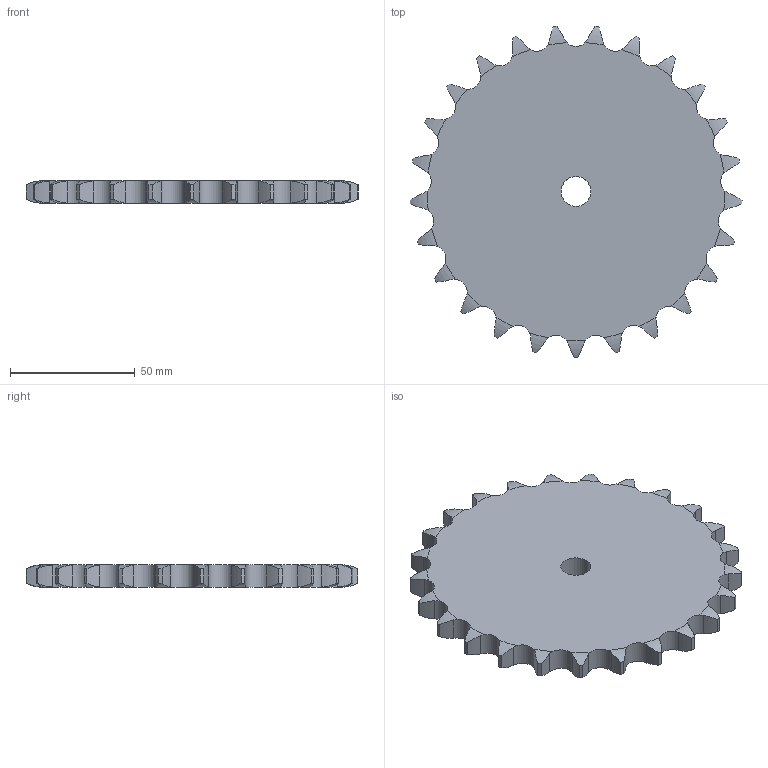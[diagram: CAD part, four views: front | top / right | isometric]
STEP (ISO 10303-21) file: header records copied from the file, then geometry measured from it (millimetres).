
FILE_DESCRIPTION((''),'2;1');
FILE_NAME('500-301-0025_PRT','2021-02-12T',('Brieden'),('Brieden'),'PRO/ENGINEER BY PARAMETRIC TECHNOLOGY CORPORATION, 2010160','PRO/ENGINEER BY PARAMETRIC TECHNOLOGY CORPORATION, 2010160','');
FILE_SCHEMA(('AUTOMOTIVE_DESIGN { 1 0 10303 214 1 1 1 1 }'));
Length unit declared in the file: millimetre
Products named in the file (1): 500-301-0025_PRT
Bounding box: 133.22 x 132.96 x 9.1 mm (x, y, z)
Volume: 106089.8 mm3; surface area: 28979.4 mm2
Topology: 1 solids, 1 shells, 154 faces, 456 edges, 304 vertices
Faces by surface type: cylinder 102, torus 50, plane 2
Entity records: 7575 total; most frequent: CARTESIAN_POINT 2256, ORIENTED_EDGE 912, DIRECTION 718, PRESENTATION_STYLE_ASSIGNMENT 457, STYLED_ITEM 457, CURVE_STYLE 456, EDGE_CURVE 456, AXIS2_PLACEMENT_3D 308
